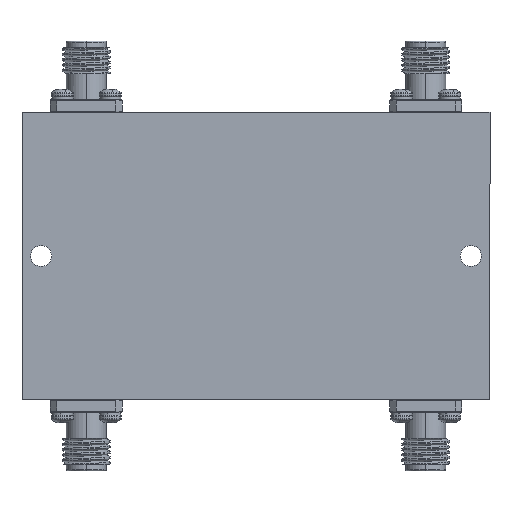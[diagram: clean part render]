
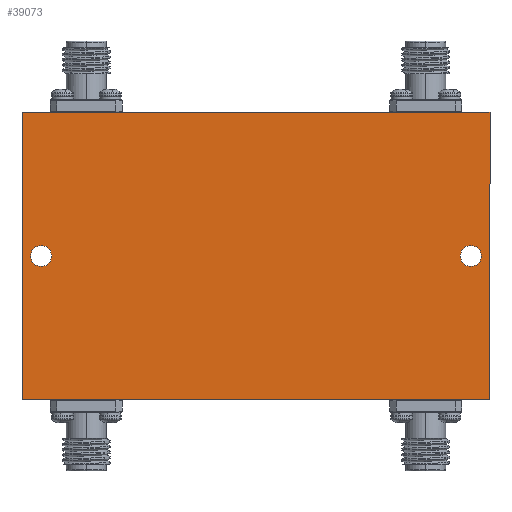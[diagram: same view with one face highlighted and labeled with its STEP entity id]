
A CAD part, front view. The second image highlights one B-rep face of the part: STEP entity #39073.
In plain terms, the highlighted planar face has unit normal (0, -1, 0).
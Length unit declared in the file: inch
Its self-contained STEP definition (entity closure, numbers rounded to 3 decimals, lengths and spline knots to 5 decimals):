
#911 = EDGE_LOOP ( 'NONE', ( #23971, #19426, #66672, #10742 ) ) ;
#1336 = DIRECTION ( 'NONE',  ( 0., 0., 1. ) ) ;
#1576 = DIRECTION ( 'NONE',  ( 0., -1., 0. ) ) ;
#2068 = AXIS2_PLACEMENT_3D ( 'NONE', #4326, #32122, #71761 ) ;
#4326 = CARTESIAN_POINT ( 'NONE',  ( -1.28762, -0.28181, 0.02228 ) ) ;
#4696 = CARTESIAN_POINT ( 'NONE',  ( -1.28762, -0.28181, -0.03272 ) ) ;
#5153 = VERTEX_POINT ( 'NONE', #35426 ) ;
#8247 = CARTESIAN_POINT ( 'NONE',  ( -1.38712, -0.28181, 0.77228 ) ) ;
#9384 = AXIS2_PLACEMENT_3D ( 'NONE', #42119, #63525, #29782 ) ;
#10742 = ORIENTED_EDGE ( 'NONE', *, *, #30030, .F. ) ;
#14323 = FACE_BOUND ( 'NONE', #35649, .T. ) ;
#14781 = ORIENTED_EDGE ( 'NONE', *, *, #73670, .T. ) ;
#15047 = VECTOR ( 'NONE', #25560, 39.37008 ) ;
#15142 = CIRCLE ( 'NONE', #2068, 0.055 ) ;
#15481 = DIRECTION ( 'NONE',  ( 0., 0., 1. ) ) ;
#16175 = VECTOR ( 'NONE', #15481, 39.37008 ) ;
#18392 = CARTESIAN_POINT ( 'NONE',  ( -1.28762, -0.28181, 0.07728 ) ) ;
#18484 = DIRECTION ( 'NONE',  ( 1., 0., 0. ) ) ;
#19426 = ORIENTED_EDGE ( 'NONE', *, *, #79971, .F. ) ;
#19735 = CARTESIAN_POINT ( 'NONE',  ( 0.95638, -0.28181, -0.03272 ) ) ;
#23394 = DIRECTION ( 'NONE',  ( 0., 1., 0. ) ) ;
#23971 = ORIENTED_EDGE ( 'NONE', *, *, #55871, .F. ) ;
#25560 = DIRECTION ( 'NONE',  ( 0., 0., -1. ) ) ;
#26177 = LINE ( 'NONE', #33510, #51830 ) ;
#28871 = FACE_OUTER_BOUND ( 'NONE', #911, .T. ) ;
#29782 = DIRECTION ( 'NONE',  ( 0., 0., 1. ) ) ;
#30030 = EDGE_CURVE ( 'NONE', #5153, #46928, #26177, .T. ) ;
#32122 = DIRECTION ( 'NONE',  ( 0., 1., 0. ) ) ;
#32653 = CIRCLE ( 'NONE', #9384, 0.055 ) ;
#33510 = CARTESIAN_POINT ( 'NONE',  ( -1.38712, -0.28181, 0.77228 ) ) ;
#34169 = CARTESIAN_POINT ( 'NONE',  ( -1.28762, -0.28181, 0.02228 ) ) ;
#35426 = CARTESIAN_POINT ( 'NONE',  ( -1.38712, -0.28181, 0.77228 ) ) ;
#35649 = EDGE_LOOP ( 'NONE', ( #14781, #56786 ) ) ;
#35931 = DIRECTION ( 'NONE',  ( 0., 1., 0. ) ) ;
#36896 = VERTEX_POINT ( 'NONE', #80443 ) ;
#37431 = AXIS2_PLACEMENT_3D ( 'NONE', #85756, #23394, #78927 ) ;
#39073 = ADVANCED_FACE ( 'NONE', ( #49383, #28871, #14323 ), #56243, .T. ) ;
#42119 = CARTESIAN_POINT ( 'NONE',  ( 0.95638, -0.28181, 0.02228 ) ) ;
#43699 = AXIS2_PLACEMENT_3D ( 'NONE', #77172, #1576, #83985 ) ;
#44045 = EDGE_LOOP ( 'NONE', ( #74148, #64363 ) ) ;
#45594 = LINE ( 'NONE', #74770, #15047 ) ;
#46115 = CIRCLE ( 'NONE', #47631, 0.055 ) ;
#46928 = VERTEX_POINT ( 'NONE', #71450 ) ;
#47631 = AXIS2_PLACEMENT_3D ( 'NONE', #34169, #35931, #1336 ) ;
#49383 = FACE_BOUND ( 'NONE', #44045, .T. ) ;
#51830 = VECTOR ( 'NONE', #18484, 39.37008 ) ;
#54840 = VERTEX_POINT ( 'NONE', #18392 ) ;
#55515 = CARTESIAN_POINT ( 'NONE',  ( -1.38712, -0.28181, -0.72772 ) ) ;
#55871 = EDGE_CURVE ( 'NONE', #88832, #5153, #70595, .T. ) ;
#56243 = PLANE ( 'NONE',  #43699 ) ;
#56786 = ORIENTED_EDGE ( 'NONE', *, *, #76241, .T. ) ;
#57602 = EDGE_CURVE ( 'NONE', #46928, #36896, #45594, .T. ) ;
#57857 = DIRECTION ( 'NONE',  ( -1., 0., 0. ) ) ;
#62960 = VECTOR ( 'NONE', #57857, 39.37008 ) ;
#63525 = DIRECTION ( 'NONE',  ( 0., 1., 0. ) ) ;
#63614 = EDGE_CURVE ( 'NONE', #64535, #54840, #15142, .T. ) ;
#64363 = ORIENTED_EDGE ( 'NONE', *, *, #75500, .T. ) ;
#64535 = VERTEX_POINT ( 'NONE', #4696 ) ;
#66672 = ORIENTED_EDGE ( 'NONE', *, *, #57602, .F. ) ;
#68414 = LINE ( 'NONE', #82931, #62960 ) ;
#70595 = LINE ( 'NONE', #8247, #16175 ) ;
#71450 = CARTESIAN_POINT ( 'NONE',  ( 1.05588, -0.28181, 0.77228 ) ) ;
#71761 = DIRECTION ( 'NONE',  ( 0., 0., 1. ) ) ;
#73670 = EDGE_CURVE ( 'NONE', #73820, #76130, #32653, .T. ) ;
#73820 = VERTEX_POINT ( 'NONE', #19735 ) ;
#74148 = ORIENTED_EDGE ( 'NONE', *, *, #63614, .T. ) ;
#74770 = CARTESIAN_POINT ( 'NONE',  ( 1.05588, -0.28181, 0.77228 ) ) ;
#75500 = EDGE_CURVE ( 'NONE', #54840, #64535, #46115, .T. ) ;
#76130 = VERTEX_POINT ( 'NONE', #89914 ) ;
#76241 = EDGE_CURVE ( 'NONE', #76130, #73820, #82479, .T. ) ;
#77172 = CARTESIAN_POINT ( 'NONE',  ( -1.38712, -0.28181, 0.77228 ) ) ;
#78927 = DIRECTION ( 'NONE',  ( 0., 0., 1. ) ) ;
#79971 = EDGE_CURVE ( 'NONE', #36896, #88832, #68414, .T. ) ;
#80443 = CARTESIAN_POINT ( 'NONE',  ( 1.05588, -0.28181, -0.72772 ) ) ;
#82479 = CIRCLE ( 'NONE', #37431, 0.055 ) ;
#82931 = CARTESIAN_POINT ( 'NONE',  ( -1.38712, -0.28181, -0.72772 ) ) ;
#83985 = DIRECTION ( 'NONE',  ( 0., 0., -1. ) ) ;
#85756 = CARTESIAN_POINT ( 'NONE',  ( 0.95638, -0.28181, 0.02228 ) ) ;
#88832 = VERTEX_POINT ( 'NONE', #55515 ) ;
#89914 = CARTESIAN_POINT ( 'NONE',  ( 0.95638, -0.28181, 0.07728 ) ) ;
